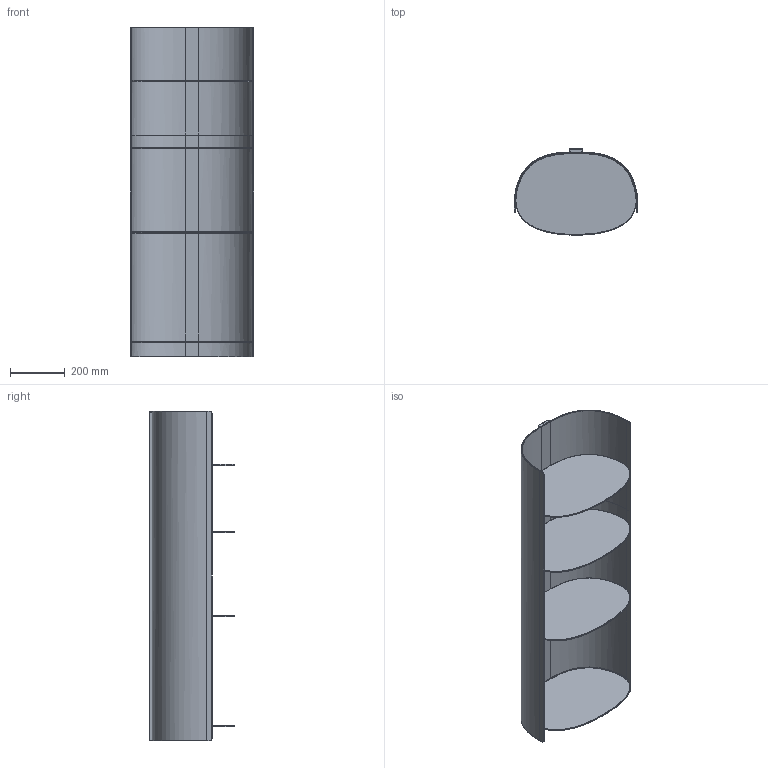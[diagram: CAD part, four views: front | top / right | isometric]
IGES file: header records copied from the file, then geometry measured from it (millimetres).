
Global section: file name: /Volumes/Clients/Pulpo/20210922_CASACOMO_Shelf/Export/202207_Pulpo_Comoshelf_medium.igs; native system: Rhinoceros ( Jun 14 2022 ); preprocessor: Trout Lake IGES 012 Jun 14 2022; date: 220705.075758; units: millimetre
Bounding box: 450 x 311.99 x 1200 mm (x, y, z)
Surface area: 2797518.5 mm2 (no closed solid volume)
Topology: 0 solids, 0 shells, 158 faces, 1794 edges, 1794 vertices
Faces by surface type: bspline 158
